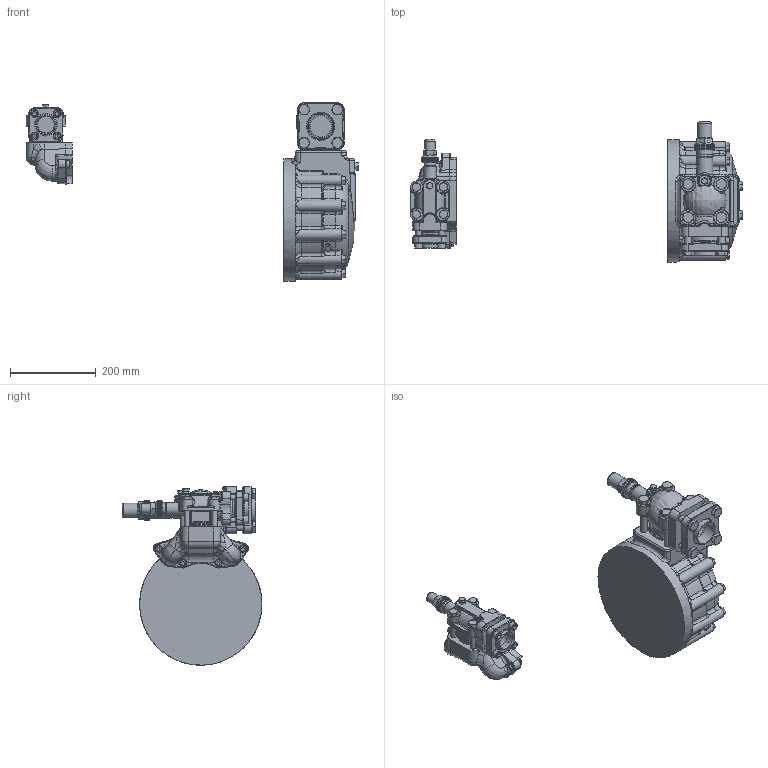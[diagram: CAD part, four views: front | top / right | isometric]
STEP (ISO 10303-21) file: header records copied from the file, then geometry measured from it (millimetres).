
FILE_DESCRIPTION(/* description */ (''),/* implementation_level */ '2;1');
FILE_NAME(/* name */ '6FE.stp',/* time_stamp */ '2023-10-27T09:43:13+02:00',/* author */ (''),/* organization */ (''),/* preprocessor_version */ 'ST-DEVELOPER v19.3',/* originating_system */ 'SIEMENS PLM Software NX2212.3001',/* authorisation */ '');
FILE_SCHEMA (('AUTOMOTIVE_DESIGN { 1 0 10303 214 3 1 1 1 }'));
Products named in the file (3): SHUT-OF-VALVE-D42L; SHUT-OFF-VALVE-COMPL-D54L; 6FE
Assembly tree (2 placements, depth 2):
  6FE
    SHUT-OFF-VALVE-COMPL-D54L
    SHUT-OF-VALVE-D42L
Bounding box: 776.1 x 327.08 x 416.94 mm (x, y, z)
Volume: 12594683.1 mm3; surface area: 652642.2 mm2
Topology: 4 solids, 4 shells, 2159 faces, 5343 edges, 3244 vertices
Faces by surface type: plane 574, bspline 572, cylinder 544, cone 256, torus 189, sphere 20, extrusion 4
Full cylindrical faces by diameter (mm): 8 x4, 10 x4, 11 x3, 12 x8, 13 x4, 13.716 x3, 14.782 x4, 15 x4, 16 x12, 16.6 x12, 17 x5, 18 x4, 24 x1, 27 x1, 30 x1, 31 x2, 33 x1, 36 x1, 37 x2, 39 x1, 40 x1, 41.4 x1, 42.2 x1, 46 x2, 49 x1, 50 x2, 52.5 x1, 53 x1, 54 x1, 54.17 x1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
Entity records: 106551 total; most frequent: CARTESIAN_POINT 56645, ORIENTED_EDGE 9974, DIRECTION 7640, EDGE_CURVE 4987, AXIS2_PLACEMENT_3D 3209, VERTEX_POINT 3155, EDGE_LOOP 2488, ADVANCED_FACE 2159
